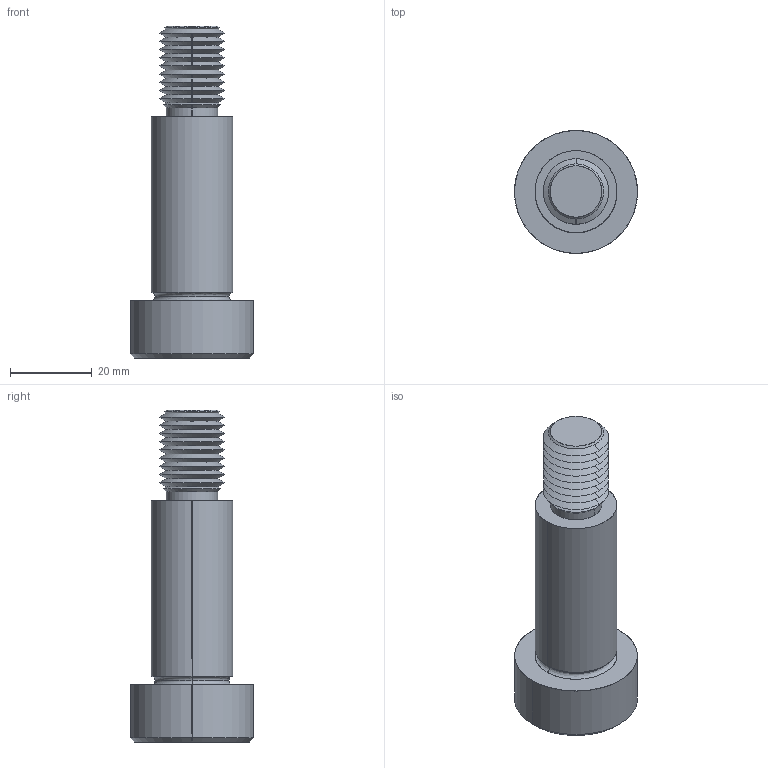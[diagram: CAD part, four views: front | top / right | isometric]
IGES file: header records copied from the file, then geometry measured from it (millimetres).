
Start section: SolidWorks IGES file using analytic representation for surfaces
Global section: file name: C:\Users\IanO\Documents\Temp Folder\GENERAL\SCREW REVISION\P0130_v2\P0130.T5_v2_20220106_IGES\P0130.200-045-T5.igs; native system: SolidWorks 2019; preprocessor: SolidWorks 2019; author: IanO; date: 220106.230001; units: millimetre
Bounding box: 30 x 30 x 81 mm (x, y, z)
Surface area: 7745.4 mm2 (no closed solid volume)
Topology: 0 solids, 0 shells, 80 faces, 692 edges, 690 vertices
Faces by surface type: revolution 60, bspline 20
